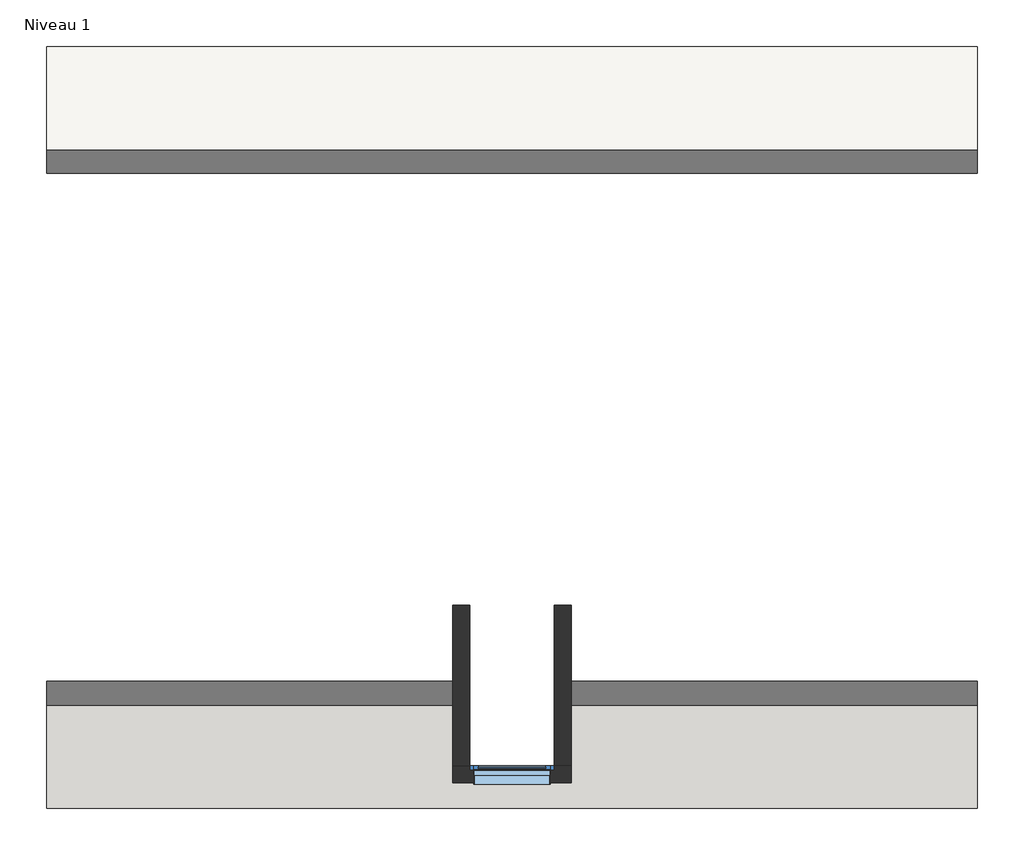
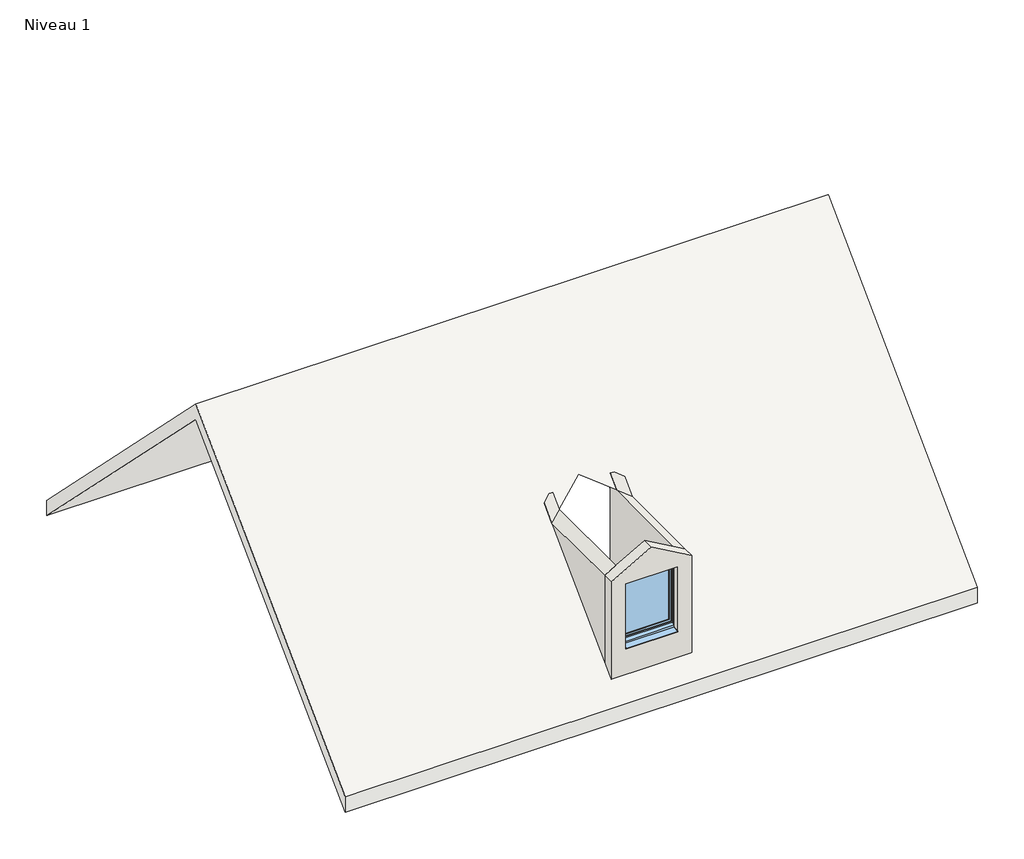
# One storey: 3 walls, 1 roof, 1 window.
"""IFC4 building model written with IfcOpenShell, lengths in millimetres."""

from ifc_helpers import new_model, si_unit, origin, place, context, project, spatial, faceted_brep, transform, mapped, element, save
from components import window_1_vantail_droit_0_90m_x_1_15m_appui_alu_45212151

model = new_model("IFC4")

# Units and contexts
model_context = context("Model", 3, world=origin())
ifc_project = project(units=[si_unit("LENGTHUNIT", "METRE", prefix="MILLI")], contexts=[model_context])

# Site, building, storey
site = spatial("IfcSite", under=ifc_project)
building = spatial("IfcBuilding", under=site)
storey = spatial("IfcBuildingStorey", under=building, Name="Niveau 1", Elevation=3000.0)

# Roof
placement = place(None, origin())
element("IfcRoof", 1, ObjectType="Toit - 200 mm", at=placement, inside=storey, context=model_context, shape_type="Brep", body=[
    faceted_brep([(-7419.8687345, 6998.8659083, 2700.0), (3580.1312655, 6998.8659083, 2700.0), (3580.1312655, 2498.8659083, 7200.0), (-7419.8687345, 2498.8659083, 7200.0), (3580.1312655, -2001.1340917, 2700.0), (-7419.8687345, -2001.1340917, 2700.0), (-1419.8687345, -1501.1340917, 3200.0), (-1419.8687345, 487.3514078, 5188.4854996), (-1918.3194168, 775.1320434, 5476.2661351), (-2419.8687345, 485.5624098, 5186.6965015), (-2419.8687345, -1501.1340917, 3200.0), (3580.1312655, 6998.8659083, 2982.8427125), (-7419.8687345, 6998.8659083, 2982.8427125), (-7419.8687345, 2498.8659083, 7482.8427125), (3580.1312655, 2498.8659083, 7482.8427125), (-7419.8687345, -2001.1340917, 2982.8427125), (3580.1312655, -2001.1340917, 2982.8427125), (-1419.8687345, 204.5086954, 5188.4854996), (-1419.8687345, -1501.1340917, 3482.8427125), (-2419.8687345, -1501.1340917, 3482.8427125), (-2419.8687345, 202.7196973, 5186.6965015), (-1918.3194168, 492.2893309, 5476.2661351)], [[[0, 1, 2, 3]], [[4, 5, 3, 2], [6, 7, 8, 9, 10]], [[11, 12, 13, 14]], [[15, 16, 14, 13], [17, 18, 19, 20, 21]], [[16, 15, 5, 4]], [[12, 11, 1, 0]], [[16, 4, 2, 1, 11, 14]], [[3, 5, 15, 13, 12, 0]], [[6, 18, 17, 7]], [[18, 6, 10, 19]], [[19, 10, 9, 20]], [[20, 9, 8, 21]], [[7, 17, 21, 8]]]),
])

# Walls
element("IfcWall", 2, ObjectType="Générique - Ext. 200 mm", at=placement, inside=storey, context=model_context, shape_type="Brep", body=[
    faceted_brep([(-2619.8687345, -1701.1340917, 3000.0), (-1219.8687345, -1701.1340917, 3000.0), (-1219.8687345, -1701.1340917, 5073.0154457), (-1918.3194168, -1701.1340917, 5476.2661351), (-2619.8687345, -1701.1340917, 5071.2264477), (-1469.8687345, -1701.1340917, 4950.0), (-1469.8687345, -1701.1340917, 3772.3874918), (-2369.8687345, -1701.1340917, 3772.3874918), (-2369.8687345, -1701.1340917, 4950.0), (-1219.8687345, -1501.1340917, 3000.0), (-1419.8687345, -1501.1340917, 3000.0), (-2419.8687345, -1501.1340917, 3000.0), (-2619.8687345, -1501.1340917, 3000.0), (-2619.8687345, -1501.1340917, 3200.0), (-2619.8687345, -1501.1340917, 5071.2264477), (-2419.8687345, -1501.1340917, 5186.6965015), (-1918.3194168, -1501.1340917, 5476.2661351), (-1419.8687345, -1501.1340917, 5188.4854996), (-1219.8687345, -1501.1340917, 5073.0154457), (-1219.8687345, -1501.1340917, 3200.0), (-2369.8687345, -1501.1340917, 3800.0), (-1469.8687345, -1501.1340917, 3800.0), (-1419.8687345, -1501.1340917, 3800.0), (-1419.8687345, -1501.1340917, 5000.0), (-2419.8687345, -1501.1340917, 5000.0), (-2419.8687345, -1501.1340917, 3800.0), (-1469.8687345, -1581.1340917, 3800.0), (-1469.8687345, -1581.1340917, 3785.0), (-1469.8687345, -1601.1340917, 4950.0), (-1469.8687345, -1601.1340917, 3800.0), (-2369.8687345, -1581.1340917, 3785.0), (-2369.8687345, -1581.1340917, 3800.0), (-2369.8687345, -1601.1340917, 3800.0), (-2369.8687345, -1601.1340917, 4950.0), (-1459.8687345, -1601.1340917, 3800.0), (-1459.8687345, -1551.1340917, 3800.0), (-1419.8687345, -1551.1340917, 3800.0), (-2419.8687345, -1551.1340917, 3800.0), (-2379.8687345, -1551.1340917, 3800.0), (-2379.8687345, -1601.1340917, 3800.0), (-1419.8687345, -1551.1340917, 5000.0), (-2419.8687345, -1551.1340917, 5000.0), (-1459.8687345, -1551.1340917, 4960.0), (-2379.8687345, -1551.1340917, 4960.0), (-1459.8687345, -1601.1340917, 4960.0), (-2379.8687345, -1601.1340917, 4960.0)], [[[0, 1, 2, 3, 4], [5, 6, 7, 8]], [[9, 10, 11, 12, 13, 14, 15, 16, 17, 18, 19], [20, 21, 22, 23, 24, 25]], [[1, 0, 12, 11, 10, 9]], [[4, 3, 16, 15, 14]], [[3, 2, 18, 17, 16]], [[0, 4, 14, 13, 12]], [[2, 1, 9, 19, 18]], [[26, 27, 6, 5, 28, 29]], [[30, 31, 32, 33, 8, 7]], [[26, 29, 34, 35, 36, 22, 21, 20, 25, 37, 38, 39, 32, 31]], [[33, 28, 5, 8]], [[27, 30, 7, 6]], [[27, 26, 31, 30]], [[22, 36, 40, 23]], [[38, 37, 41, 40, 36, 35, 42, 43]], [[35, 34, 44, 42]], [[29, 28, 33, 32, 39, 45, 44, 34]], [[23, 40, 41, 24]], [[43, 42, 44, 45]], [[37, 25, 24, 41]], [[39, 38, 43, 45]]]),
])
element("IfcWall", 3, ObjectType="Générique - Ext. 200 mm", at=placement, inside=storey, context=model_context, shape_type="Brep", body=[
    faceted_brep([(-2419.8687345, -1501.1340917, 3000.0), (-2419.8687345, 398.8659083, 3000.0), (-2419.8687345, 398.8659083, 5382.8427125), (-2419.8687345, 202.7196973, 5186.6965015), (-2419.8687345, -1501.1340917, 5186.6965015), (-2419.8687345, -1501.1340917, 5000.0), (-2419.8687345, -1501.1340917, 3800.0), (-2619.8687345, -1501.1340917, 3000.0), (-2619.8687345, -1501.1340917, 5071.2264477), (-2619.8687345, 87.2496434, 5071.2264477), (-2619.8687345, 318.1897511, 5302.1665553), (-2619.8687345, 318.1897511, 4800.0), (-2619.8687345, 398.8659083, 4800.0), (-2619.8687345, 398.8659083, 3000.0), (-2480.1335314, 398.8659083, 5382.8427125), (-2480.1335314, 398.8659083, 4800.0)], [[[0, 1, 2, 3, 4, 5, 6]], [[7, 8, 9, 10, 11, 12, 13]], [[0, 6, 5, 4, 8, 7]], [[4, 3, 9, 8]], [[3, 2, 14, 10, 9]], [[1, 0, 7, 13]], [[2, 1, 13, 12, 15, 14]], [[15, 12, 11]], [[15, 11, 10, 14]]]),
])
element("IfcWall", 4, ObjectType="Générique - Ext. 200 mm", at=placement, inside=storey, context=model_context, shape_type="Brep", body=[
    faceted_brep([(-1219.8687345, -1501.1340917, 3000.0), (-1219.8687345, 398.8659083, 3000.0), (-1219.8687345, 398.8659083, 4800.0), (-1219.8687345, 319.9787492, 4800.0), (-1219.8687345, 319.9787492, 5303.9555534), (-1219.8687345, 89.0386415, 5073.0154457), (-1219.8687345, -1501.1340917, 5073.0154457), (-1419.8687345, -1501.1340917, 3000.0), (-1419.8687345, -1501.1340917, 3800.0), (-1419.8687345, -1501.1340917, 5000.0), (-1419.8687345, -1501.1340917, 5188.4854996), (-1419.8687345, 204.5086954, 5188.4854996), (-1419.8687345, 398.8659083, 5382.8427125), (-1419.8687345, 398.8659083, 3000.0), (-1356.5053021, 398.8659083, 5382.8427125), (-1356.5053021, 398.8659083, 4800.0)], [[[0, 1, 2, 3, 4, 5, 6]], [[7, 8, 9, 10, 11, 12, 13]], [[1, 0, 7, 13]], [[2, 1, 13, 12, 14, 15]], [[0, 6, 10, 9, 8, 7]], [[3, 2, 15]], [[3, 15, 14, 4]], [[6, 5, 11, 10]], [[5, 4, 14, 12, 11]]]),
])

# Window
window_1_vantail_droit_0_90m_x_1_15m_appui_alu_shape = window_1_vantail_droit_0_90m_x_1_15m_appui_alu_45212151(model_context)
element("IfcWindow", 5, ObjectType="1 Vantail - Droit : 0.90m x 1.15m - Appui Alu", at=placement, inside=storey, context=model_context, shape_type="MappedRepresentation", body=[
    mapped(window_1_vantail_droit_0_90m_x_1_15m_appui_alu_shape, transform((-1919.8687345, -1601.1340917, 3000.0), x_axis=(-1.0, 0.0, 0.0), y_axis=(0.0, -1.0, 0.0), z_axis=(0.0, 0.0, 1.0))),
])

save(model, "model.ifc")
